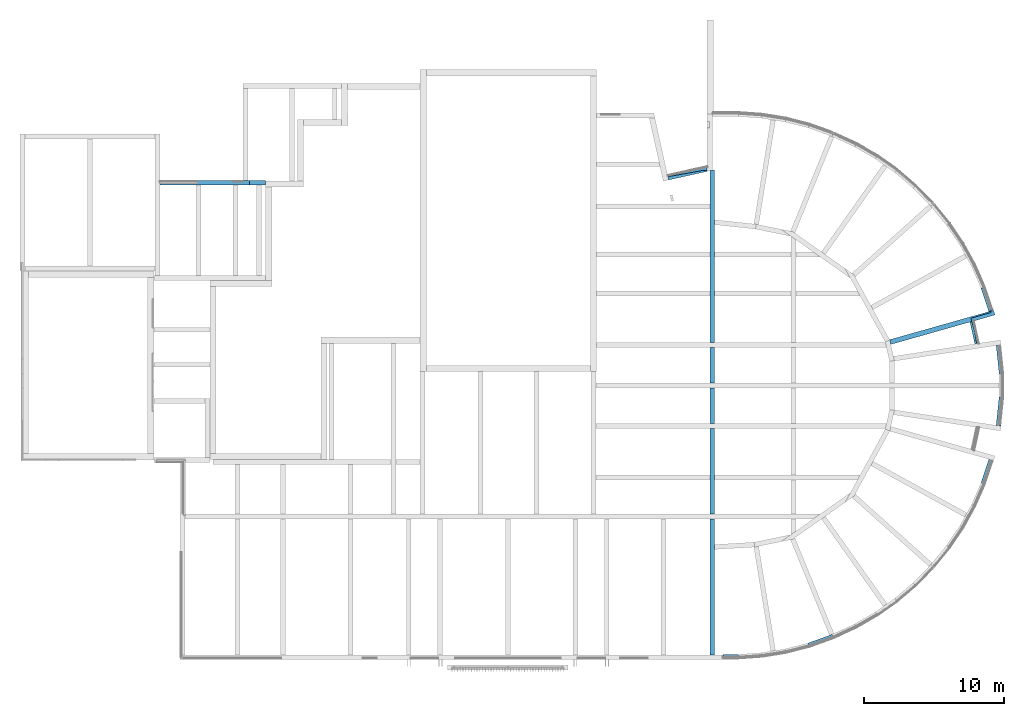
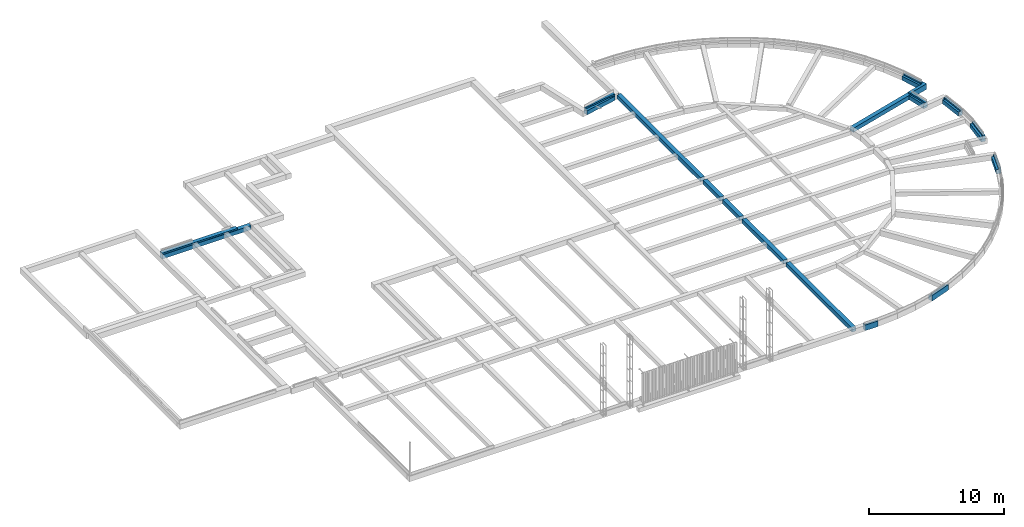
# One storey, part 9 of 11: 11 walls.
"""IFC2X3 building model written with IfcOpenShell, lengths in millimetres."""

from ifc_helpers import new_model, entity, si_unit, converted_unit, derived_unit, direction, frame, origin, place, context, subcontext, project, spatial, faceted_brep, material, layer, layer_set, type_object, element, save


model = new_model("IFC2X3")

# Units and contexts
model_context = context("Model", 3, precision=0.01, world=origin(), true_north=direction((6.12303176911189e-17, 1.0)))
body_context = subcontext(model_context, "Body", "Model", "MODEL_VIEW")
ifc_project = project(units=[si_unit("LENGTHUNIT", "METRE", prefix="MILLI"), si_unit("AREAUNIT", "SQUARE_METRE"), si_unit("VOLUMEUNIT", "CUBIC_METRE"), converted_unit("PLANEANGLEUNIT", "DEGREE", entity("IfcRatioMeasure", 0.0174532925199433), si_unit("PLANEANGLEUNIT", "RADIAN"), dimensions=[0, 0, 0, 0, 0, 0, 0]), si_unit("MASSUNIT", "GRAM", prefix="KILO"), derived_unit("MASSDENSITYUNIT", [(si_unit("MASSUNIT", "GRAM", prefix="KILO"), 1), (si_unit("LENGTHUNIT", "METRE"), -3)]), derived_unit("MOMENTOFINERTIAUNIT", [(si_unit("LENGTHUNIT", "METRE"), 4)]), si_unit("TIMEUNIT", "SECOND"), si_unit("FREQUENCYUNIT", "HERTZ"), si_unit("THERMODYNAMICTEMPERATUREUNIT", "DEGREE_CELSIUS"), derived_unit("THERMALTRANSMITTANCEUNIT", [(si_unit("MASSUNIT", "GRAM", prefix="KILO"), 1), (si_unit("THERMODYNAMICTEMPERATUREUNIT", "KELVIN"), -1), (si_unit("TIMEUNIT", "SECOND"), -3)]), derived_unit("VOLUMETRICFLOWRATEUNIT", [(si_unit("LENGTHUNIT", "METRE"), 3), (si_unit("TIMEUNIT", "SECOND"), -1)]), si_unit("ELECTRICCURRENTUNIT", "AMPERE"), si_unit("ELECTRICVOLTAGEUNIT", "VOLT"), si_unit("POWERUNIT", "WATT"), si_unit("FORCEUNIT", "NEWTON", prefix="KILO"), si_unit("ILLUMINANCEUNIT", "LUX"), si_unit("LUMINOUSFLUXUNIT", "LUMEN"), si_unit("LUMINOUSINTENSITYUNIT", "CANDELA"), derived_unit("USERDEFINED", [(si_unit("MASSUNIT", "GRAM", prefix="KILO"), -1), (si_unit("LENGTHUNIT", "METRE"), -2), (si_unit("TIMEUNIT", "SECOND"), 3), (si_unit("LUMINOUSFLUXUNIT", "LUMEN"), 1)]), derived_unit("LINEARVELOCITYUNIT", [(si_unit("LENGTHUNIT", "METRE"), 1), (si_unit("TIMEUNIT", "SECOND"), -1)]), si_unit("PRESSUREUNIT", "PASCAL"), derived_unit("USERDEFINED", [(si_unit("LENGTHUNIT", "METRE"), -2), (si_unit("MASSUNIT", "GRAM", prefix="KILO"), 1), (si_unit("TIMEUNIT", "SECOND"), -2)]), derived_unit("LINEARFORCEUNIT", [(si_unit("MASSUNIT", "GRAM", prefix="KILO"), 1), (si_unit("LENGTHUNIT", "METRE"), 1), (si_unit("TIMEUNIT", "SECOND"), -2), (si_unit("LENGTHUNIT", "METRE"), -1)]), derived_unit("PLANARFORCEUNIT", [(si_unit("MASSUNIT", "GRAM", prefix="KILO"), 1), (si_unit("LENGTHUNIT", "METRE"), 1), (si_unit("TIMEUNIT", "SECOND"), -2), (si_unit("LENGTHUNIT", "METRE"), -2)])], contexts=[model_context])

# Site, building, storey
site_placement = place(None, origin())
site = spatial("IfcSite", under=ifc_project, at=site_placement, Name="Default", CompositionType="ELEMENT")
building_placement = place(site_placement, origin())
building = spatial("IfcBuilding", under=site, at=building_placement, Name="-", CompositionType="ELEMENT")
storey_placement = place(building_placement, frame((0.0, 0.0, -780.0)))
storey = spatial("IfcBuildingStorey", under=building, at=storey_placement, Name="ok. fundering", CompositionType="ELEMENT", Elevation=-780.0)

# Walls
ifc_material = material(Name="NLRS_f2_beton")
ifc_layer = layer(ifc_material, 350.0)
ifc_layer_set = layer_set([ifc_layer], Name="Basic Wall:NLRS_16_WA_funderingsbalk 350x...mm_gen_aly")
wall_type = type_object("IfcWallType", Name="Basic Wall:NLRS_16_WA_funderingsbalk 350x...mm_gen_aly", PredefinedType="STANDARD", material=ifc_layer_set)
wall_1_placement = place(storey_placement, frame((9825.0, 34122.1133714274, 0.0)))
element("IfcWall", 1, at=wall_1_placement, inside=storey, type_object=wall_type, Name="Basic Wall:NLRS_16_WA_funderingsbalk 350x...mm_gen_aly", ObjectType="Basic Wall:NLRS_16_WA_funderingsbalk 350x...mm_gen_aly", context=body_context, shape_type="Brep", body=[
    faceted_brep([(0.0, -175.0, 0.0), (2577.09385055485, -175.0, 0.0), (2927.09385055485, -175.0, 0.0), (5235.59385055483, -175.0, 0.0), (5585.59385055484, -175.0, 0.0), (6919.64234277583, -175.0, 0.0), (7269.64234277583, -175.0, 0.0), (7569.64234277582, -175.0, 0.0), (7569.64234277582, -175.0, 370.0), (0.0, -175.0, 370.0), (7569.64234277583, 175.0, 0.0), (6310.0, 175.0, 0.0), (5960.0, 175.0, 0.0), (0.0, 175.0, 0.0), (0.0, 175.0, 500.0), (5960.0, 175.0, 500.0), (6310.0, 175.0, 500.0), (6420.0, 175.0, 500.0), (6420.0, 175.0, 370.0), (7569.64234277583, 175.0, 370.0), (7569.64234277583, 140.168284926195, 370.0), (0.0, -150.0, 500.0), (6420.0, -150.0, 500.0), (0.0, -150.0, 370.0), (6420.0, -150.0, 370.0)], [[[0, 1, 2, 3, 4, 5, 6, 7, 8, 9]], [[10, 11, 12, 13, 14, 15, 16, 17, 18, 19]], [[7, 6, 5, 4, 3, 2, 1, 0, 13, 12, 11, 10]], [[7, 10, 19, 20, 8]], [[17, 16, 15, 14, 21, 22]], [[14, 13, 0, 9, 23, 21]], [[24, 23, 9, 8, 20, 19, 18]], [[22, 24, 18, 17]], [[24, 22, 21, 23]]]),
])
wall_2_placement = place(storey_placement, frame((51234.6180848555, 190.440635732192, 0.0), z_axis=(0.0, 0.0, 1.0), x_axis=(-1.0, 0.0, 0.0)))
element("IfcWall", 2, at=wall_2_placement, inside=storey, type_object=wall_type, Name="Basic Wall:NLRS_16_WA_funderingsbalk 350x...mm_gen_aly", ObjectType="Basic Wall:NLRS_16_WA_funderingsbalk 350x...mm_gen_aly", context=body_context, shape_type="Brep", body=[
    faceted_brep([(12.6103563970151, -175.0, 0.0), (1097.33213185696, -175.0, 0.0), (1097.33213185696, -175.0, 370.0), (12.6103563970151, -175.0, 370.0), (1097.33213185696, 175.0, 0.0), (0.0, 175.0, 0.0), (0.0, 175.0, 500.0), (1097.33213185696, 175.0, 500.0), (1097.33213185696, -145.680586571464, 500.0), (1097.33213185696, -145.680586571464, 370.0), (5.90885271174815, 11.0, 500.0), (1069.33213185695, 11.0, 500.0), (1069.33213185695, -145.680586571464, 500.0), (5.90885271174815, 11.0, 370.0), (1069.33213185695, 11.0, 370.0), (1069.33213185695, -145.680586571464, 370.0)], [[[0, 1, 2, 3]], [[4, 5, 6, 7]], [[1, 0, 5, 4]], [[4, 7, 8, 9, 2, 1]], [[7, 6, 10, 11, 12, 8]], [[6, 5, 0, 3, 13, 10]], [[14, 13, 3, 2, 9, 15]], [[12, 15, 9, 8]], [[13, 14, 11, 10]], [[14, 15, 12, 11]]]),
])
wall_3_placement = place(storey_placement, frame((58010.0292487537, 1634.73689799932, 0.0), z_axis=(0.0, 0.0, 1.0), x_axis=(-0.940419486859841, -0.340016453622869, 0.0)))
element("IfcWall", 3, at=wall_3_placement, inside=storey, type_object=wall_type, Name="Basic Wall:NLRS_16_WA_funderingsbalk 350x...mm_gen_aly", ObjectType="Basic Wall:NLRS_16_WA_funderingsbalk 350x...mm_gen_aly", context=body_context, shape_type="Brep", body=[
    faceted_brep([(15.06003455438, -175.0, 0.0), (210.011529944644, -175.0, 0.0), (1837.7002888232, -175.0, 0.0), (1837.7002888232, -175.0, 370.0), (210.011529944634, -175.0, 370.0), (15.06003455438, -175.0, 370.0), (1854.90948796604, 175.0, 0.0), (0.0, 175.0, 0.0), (0.0, 175.0, 500.0), (1854.90948796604, 175.0, 500.0), (7.05670190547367, 11.0, 500.0), (1844.9034599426, 11.0, 500.0), (1846.83639080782, 10.8096747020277, 500.0), (1846.83639080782, 10.8096747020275, 370.0), (7.05670190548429, 11.0, 370.0), (1844.90345994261, 11.0, 370.0)], [[[0, 1, 2, 3, 4, 5]], [[6, 7, 8, 9]], [[2, 1, 0, 7, 6]], [[9, 8, 10, 11, 12]], [[2, 6, 9, 12, 13, 3]], [[8, 7, 0, 5, 14, 10]], [[15, 14, 5, 4, 3, 13]], [[14, 15, 11, 10]], [[11, 15, 13, 12]]]),
])
wall_4_placement = place(storey_placement, frame((69332.4721044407, 14293.6586930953, 0.0), z_axis=(0.0, 0.0, 1.0), x_axis=(-0.315556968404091, -0.948906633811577, 0.0)))
element("IfcWall", 4, at=wall_4_placement, inside=storey, type_object=wall_type, Name="Basic Wall:NLRS_16_WA_funderingsbalk 350x...mm_gen_aly", ObjectType="Basic Wall:NLRS_16_WA_funderingsbalk 350x...mm_gen_aly", context=body_context, shape_type="Brep", body=[
    faceted_brep([(15.9232896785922, -175.0, 0.0), (1782.3359548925, -175.0, 0.0), (1782.33595489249, -175.0, 370.0), (15.9232896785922, -175.0, 370.0), (1798.22936189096, 175.0, 0.0), (0.0, 175.0, 0.0), (0.0, 175.0, 500.0), (1798.22936189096, 175.0, 500.0), (10.3659299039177, -52.8471056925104, 500.0), (80.2935989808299, -49.6657384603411, 500.0), (77.533604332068, 11.0, 500.0), (1790.78216546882, 11.0, 500.0), (1790.78216546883, 11.0, 370.0), (10.3659299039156, -52.8471056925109, 370.0), (77.5336043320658, 11.0, 370.0), (80.2935989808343, -49.6657384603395, 370.0)], [[[0, 1, 2, 3]], [[4, 5, 6, 7]], [[1, 0, 5, 4]], [[7, 6, 8, 9, 10, 11]], [[1, 4, 7, 11, 12, 2]], [[6, 5, 0, 3, 13, 8]], [[14, 15, 13, 3, 2, 12]], [[14, 12, 11, 10]], [[15, 9, 8, 13]], [[15, 14, 10, 9]]]),
])
wall_5_placement = place(storey_placement, frame((69561.1619836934, 24831.2233044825, 0.0), z_axis=(0.0, 0.0, 1.0), x_axis=(-0.962244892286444, -0.272185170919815, 0.0)))
element("IfcWall", 5, at=wall_5_placement, inside=storey, type_object=wall_type, Name="Basic Wall:NLRS_16_WA_funderingsbalk 350x...mm_gen_aly", ObjectType="Basic Wall:NLRS_16_WA_funderingsbalk 350x...mm_gen_aly", context=body_context, shape_type="Brep", body=[
    faceted_brep([(15.8940314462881, -175.0, 0.0), (366.254731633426, -175.0, 0.0), (7744.08173386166, -175.0, 0.0), (7744.08173386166, -175.0, 370.0), (366.254731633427, -175.0, 370.0), (244.25773304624, -175.0, 370.0), (244.257733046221, -175.0, 500.0), (15.8940314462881, -175.0, 500.0), (7757.64174497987, 175.0, 0.0), (1867.45500255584, 175.0, 0.0), (1516.86293048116, 175.0, 0.0), (0.0, 175.0, 0.0), (0.0, 175.0, 500.0), (1516.86293048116, 175.0, 500.0), (1732.24063039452, 175.0, 500.0), (1732.24063039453, 175.0, 370.0), (1867.45500255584, 175.0, 370.0), (7757.64174497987, 175.0, 370.0), (7738.64374652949, -151.479558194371, 0.0), (244.257729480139, -70.0, 500.0), (1732.24063039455, -70.0, 500.0), (7738.64374652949, -151.479558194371, 370.0), (1732.24063039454, -70.0, 370.0), (244.257729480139, -70.0, 370.0)], [[[0, 1, 2, 3, 4, 5, 6, 7]], [[8, 9, 10, 11, 12, 13, 14, 15, 16, 17]], [[2, 1, 0, 11, 10, 9, 8, 18]], [[12, 7, 6, 19, 20, 14, 13]], [[0, 7, 12, 11]], [[2, 18, 21, 3]], [[18, 8, 17, 21]], [[22, 23, 5, 4, 3, 21, 17, 16, 15]], [[23, 22, 20, 19]], [[20, 22, 15, 14]], [[23, 19, 6, 5]]]),
])
wall_6_placement = place(storey_placement, frame((67978.325232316, 24212.1931990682, 0.0), z_axis=(0.0, 0.0, 1.0), x_axis=(0.21582659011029, -0.976431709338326, 0.0)))
element("IfcWall", 6, at=wall_6_placement, inside=storey, type_object=wall_type, Name="Basic Wall:NLRS_16_WA_funderingsbalk 350x...mm_gen_aly", ObjectType="Basic Wall:NLRS_16_WA_funderingsbalk 350x...mm_gen_aly", context=body_context, shape_type="Brep", body=[
    faceted_brep([(20.3666639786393, -175.0, 0.0), (1621.00119570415, -175.0, 0.0), (1621.00119570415, -175.0, 370.0), (20.3666639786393, -175.0, 370.0), (1644.27210704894, 175.0, 0.0), (0.0, 175.0, 0.0), (0.0, 175.0, 500.0), (1644.27210704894, 175.0, 500.0), (12.5117639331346, -40.0139748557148, 500.0), (809.848723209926, 6.3834363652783, 500.0), (1629.4379202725, -48.1096709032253, 500.0), (1629.4379202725, -48.1096709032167, 370.0), (12.5117639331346, -40.0139748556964, 370.0), (809.848723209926, 6.3834363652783, 370.0)], [[[0, 1, 2, 3]], [[4, 5, 6, 7]], [[1, 0, 5, 4]], [[7, 6, 8, 9, 10]], [[1, 4, 7, 10, 11, 2]], [[6, 5, 0, 3, 12, 8]], [[11, 13, 12, 3, 2]], [[13, 9, 8, 12]], [[9, 13, 11, 10]]]),
])
wall_7_placement = place(storey_placement, frame((68766.0307152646, 26642.5174871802, 0.0), z_axis=(0.0, 0.0, 1.0), x_axis=(0.315556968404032, -0.948906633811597, 0.0)))
element("IfcWall", 7, at=wall_7_placement, inside=storey, type_object=wall_type, Name="Basic Wall:NLRS_16_WA_funderingsbalk 350x...mm_gen_aly", ObjectType="Basic Wall:NLRS_16_WA_funderingsbalk 350x...mm_gen_aly", context=body_context, shape_type="Brep", body=[
    faceted_brep([(15.8934069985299, -175.0, 0.0), (1778.2233822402, -175.0, 0.0), (1778.22338224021, -175.0, 370.0), (15.8934069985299, -175.0, 370.0), (1794.11741368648, 175.0, 0.0), (0.0, 175.0, 0.0), (0.0, 175.0, 500.0), (1794.11741368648, 175.0, 500.0), (7.44719642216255, 11.0, 500.0), (371.590769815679, 11.0, 500.0), (1711.59200575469, 11.0, 500.0), (1708.83433610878, -49.7262153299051, 500.0), (1783.75774762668, -53.1285986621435, 500.0), (1783.75774762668, -53.1285986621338, 370.0), (7.44719642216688, 11.0, 370.0), (371.590769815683, 11.0, 370.0), (1708.83433610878, -49.7262153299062, 370.0), (1711.59200575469, 11.0, 370.0)], [[[0, 1, 2, 3]], [[4, 5, 6, 7]], [[1, 0, 5, 4]], [[7, 6, 8, 9, 10, 11, 12]], [[1, 4, 7, 12, 13, 2]], [[6, 5, 0, 3, 14, 8]], [[15, 14, 3, 2, 13, 16, 17]], [[14, 15, 9, 8]], [[15, 17, 10, 9]], [[17, 16, 11, 10]], [[11, 16, 13, 12]]]),
])
wall_8_placement = place(storey_placement, frame((69858.1523281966, 22504.8607535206, 0.0), z_axis=(0.0, 0.0, 1.0), x_axis=(0.10452846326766, -0.994521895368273, 0.0)))
element("IfcWall", 8, at=wall_8_placement, inside=storey, type_object=wall_type, Name="Basic Wall:NLRS_16_WA_funderingsbalk 350x...mm_gen_aly", ObjectType="Basic Wall:NLRS_16_WA_funderingsbalk 350x...mm_gen_aly", context=body_context, shape_type="Brep", body=[
    faceted_brep([(16.2614630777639, -175.0, 0.0), (2038.39941844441, -175.0, 0.0), (2038.39941844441, -175.0, 370.0), (16.2614630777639, -175.0, 370.0), (2056.74214119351, 175.0, 0.0), (0.0, 175.0, 0.0), (0.0, 175.0, 500.0), (2056.74214119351, 175.0, 500.0), (10.5924745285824, -52.9847801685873, 500.0), (85.5116559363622, -49.5039358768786, 500.0), (82.7005630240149, 11.0, 500.0), (83.2967122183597, 11.0, 500.0), (2048.14726539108, 11.0, 500.0), (10.5924745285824, -52.9847801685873, 370.0), (2048.14726539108, 11.0, 370.0), (82.7005630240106, 11.0, 370.0), (85.5116559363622, -49.5039358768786, 370.0)], [[[0, 1, 2, 3]], [[4, 5, 6, 7]], [[1, 0, 5, 4]], [[7, 6, 8, 9, 10, 11, 12]], [[6, 5, 0, 3, 13, 8]], [[1, 4, 7, 12, 14, 2]], [[15, 16, 13, 3, 2, 14]], [[16, 9, 8, 13]], [[16, 15, 10, 9]], [[15, 14, 12, 11, 10]]]),
])
wall_9_placement = place(storey_placement, frame((70073.1404235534, 18772.73379695, 0.0), z_axis=(0.0, 0.0, 1.0), x_axis=(-0.104528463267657, -0.994521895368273, 0.0)))
element("IfcWall", 9, at=wall_9_placement, inside=storey, type_object=wall_type, Name="Basic Wall:NLRS_16_WA_funderingsbalk 350x...mm_gen_aly", ObjectType="Basic Wall:NLRS_16_WA_funderingsbalk 350x...mm_gen_aly", context=body_context, shape_type="Brep", body=[
    faceted_brep([(18.3427227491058, -175.0, 0.0), (2039.88804812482, -175.0, 0.0), (2039.88804812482, -175.0, 370.0), (18.3427227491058, -175.0, 370.0), (2055.86347297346, 175.0, 0.0), (0.0, 175.0, 0.0), (0.0, 175.0, 500.0), (2055.86347297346, 175.0, 500.0), (8.59487580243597, 11.0, 500.0), (1970.89626548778, 11.0, 500.0), (1971.26026894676, 11.0, 500.0), (1968.49967901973, -49.4807999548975, 500.0), (2045.45692412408, -52.9934419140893, 500.0), (2045.45692412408, -52.9934419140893, 370.0), (8.59487580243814, 11.0, 370.0), (1971.26026894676, 11.0, 370.0), (1968.49967901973, -49.4807999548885, 370.0)], [[[0, 1, 2, 3]], [[4, 5, 6, 7]], [[1, 0, 5, 4]], [[7, 6, 8, 9, 10, 11, 12]], [[1, 4, 7, 12, 13, 2]], [[6, 5, 0, 3, 14, 8]], [[15, 14, 3, 2, 13, 16]], [[11, 16, 13, 12]], [[14, 15, 10, 9, 8]], [[15, 16, 11, 10]]]),
])
wall_10_placement = place(storey_placement, frame((49361.6203901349, 336.121222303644, 0.0), z_axis=(0.0, 0.0, 1.0), x_axis=(0.0, 1.0, 0.0)))
element("IfcWall", 10, at=wall_10_placement, inside=storey, type_object=wall_type, Name="Basic Wall:NLRS_16_WA_funderingsbalk 350x...mm_gen_aly", ObjectType="Basic Wall:NLRS_16_WA_funderingsbalk 350x...mm_gen_aly", context=body_context, shape_type="Brep", body=[
    faceted_brep([(0.0, -175.0, 0.0), (7542.52661883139, -175.0, 0.0), (7893.11861115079, -175.0, 0.0), (9732.50287309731, -175.0, 0.0), (9732.50287309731, -175.0, 370.0), (7893.11861115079, -175.0, 370.0), (7542.52661883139, -175.0, 370.0), (0.0, -175.0, 370.0), (0.0, 175.0, 0.0), (9732.50287309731, 175.0, 0.0), (0.0, 175.0, 370.0), (9732.50287309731, 175.0, 370.0)], [[[0, 1, 2, 3, 4, 5, 6, 7]], [[0, 8, 9, 3, 2, 1]], [[8, 0, 7, 10]], [[3, 9, 11, 4]], [[7, 6, 5, 4, 11, 10]], [[9, 8, 10, 11]]]),
    faceted_brep([(34643.2463973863, 175.0, 0.0), (32277.6206095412, 175.0, 0.0), (31927.6206095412, 175.0, 0.0), (28827.0855601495, 175.0, 0.0), (28477.0855601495, 175.0, 0.0), (26041.1779851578, 175.0, 0.0), (25691.1779851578, 175.0, 0.0), (22354.93850666, 175.0, 0.0), (22354.93850666, 175.0, 370.0), (25691.1779851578, 175.0, 370.0), (26041.1779851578, 175.0, 370.0), (28477.0855601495, 175.0, 370.0), (28827.0855601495, 175.0, 370.0), (31927.6206095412, 175.0, 370.0), (32277.6206095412, 175.0, 370.0), (34643.2463973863, 175.0, 370.0), (34677.6603548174, 20.0, 500.0), (34671.6699661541, 46.9806297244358, 500.0), (34671.6699661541, 20.0, 500.0), (22354.93850666, -175.0, 0.0), (22354.93850666, -175.0, 370.0), (34671.6699661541, 20.0, 370.0), (34671.6699661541, 46.9806297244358, 370.0), (34677.6603548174, 20.0, 370.0), (34720.9553335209, -175.0, 0.0), (34689.871759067, -35.0, 0.0), (34720.9553335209, -175.0, 370.0), (25691.1779851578, -175.0, 370.0), (26041.1779851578, -175.0, 370.0), (28477.0855601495, -175.0, 370.0), (28827.0855601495, -175.0, 370.0), (30786.3766469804, -175.0, 370.0), (31138.3586550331, -175.0, 370.0), (31138.3586550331, -175.0, 0.0), (30786.3766469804, -175.0, 0.0), (28827.0855601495, -175.0, 0.0), (28477.0855601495, -175.0, 0.0), (26041.1779851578, -175.0, 0.0), (25691.1779851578, -175.0, 0.0)], [[[0, 1, 2, 3, 4, 5, 6, 7, 8, 9, 10, 11, 12, 13, 14, 15]], [[16, 17, 18]], [[7, 19, 20, 8]], [[21, 18, 17, 22]], [[18, 21, 23, 16]], [[24, 25, 0, 15, 22, 17, 16, 23, 26]], [[23, 21, 22, 15, 14, 13, 12, 11, 10, 9, 8, 20, 27, 28, 29, 30, 31, 32, 26]], [[24, 33, 34, 35, 36, 37, 38, 19, 7, 6, 5, 4, 3, 2, 1, 0, 25]], [[19, 38, 37, 36, 35, 34, 33, 24, 26, 32, 31, 30, 29, 28, 27, 20]]]),
    faceted_brep([(19454.9385066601, 175.0, 0.0), (19454.9385066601, -175.0, 0.0), (19454.9385066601, -175.0, 370.0), (19454.9385066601, 175.0, 370.0), (22004.93850666, -175.0, 0.0), (22004.93850666, 175.0, 0.0), (22004.93850666, 175.0, 370.0), (22004.93850666, -175.0, 370.0)], [[[0, 1, 2, 3]], [[4, 5, 6, 7]], [[2, 7, 6, 3]], [[1, 0, 5, 4]], [[5, 0, 3, 6]], [[1, 4, 7, 2]]]),
    faceted_brep([(19104.9385066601, -175.0, 0.0), (19104.9385066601, 175.0, 0.0), (19104.9385066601, 175.0, 370.0), (19104.9385066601, -175.0, 370.0), (16554.93850666, 175.0, 0.0), (16554.93850666, -175.0, 0.0), (16554.93850666, -175.0, 370.0), (16554.93850666, 175.0, 370.0)], [[[0, 1, 2, 3]], [[4, 5, 6, 7]], [[6, 3, 2, 7]], [[1, 0, 5, 4]], [[1, 4, 7, 2]], [[5, 0, 3, 6]]]),
    faceted_brep([(16204.93850666, -175.0, 0.0), (16204.93850666, 175.0, 0.0), (16204.93850666, 175.0, 370.0), (16204.93850666, -175.0, 370.0), (10082.5028730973, 175.0, 0.0), (10082.5028730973, -175.0, 0.0), (10082.5028730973, -175.0, 370.0), (10082.5028730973, 175.0, 370.0), (12518.6990281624, -175.0, 370.0), (12868.6990281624, -175.0, 370.0), (12868.6990281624, 175.0, 370.0), (12518.6990281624, 175.0, 370.0), (12868.6990281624, -175.0, 0.0), (12518.6990281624, -175.0, 0.0), (12518.6990281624, 175.0, 0.0), (12868.6990281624, 175.0, 0.0)], [[[0, 1, 2, 3]], [[4, 5, 6, 7]], [[6, 8, 9, 3, 2, 10, 11, 7]], [[1, 0, 12, 13, 5, 4, 14, 15]], [[1, 15, 14, 4, 7, 11, 10, 2]], [[5, 13, 12, 0, 3, 9, 8, 6]]]),
])
wall_11_placement = place(storey_placement, frame((46203.8302699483, 34496.3735131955, 0.0), z_axis=(0.0, 0.0, 1.0), x_axis=(0.976227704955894, 0.216747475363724, 0.0)))
element("IfcWall", 11, at=wall_11_placement, inside=storey, type_object=wall_type, Name="Basic Wall:NLRS_16_WA_funderingsbalk 350x...mm_gen_aly", ObjectType="Basic Wall:NLRS_16_WA_funderingsbalk 350x...mm_gen_aly", context=body_context, shape_type="Brep", body=[
    faceted_brep([(0.0, -175.0, 0.0), (2821.94338268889, -175.0, 0.0), (2821.94338268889, -175.0, 370.0), (0.0, -175.0, 370.0), (2899.65231882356, 175.0, 0.0), (0.0, 175.0, 0.0), (0.0, 175.0, 500.0), (2899.65231882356, 175.0, 500.0), (0.0, 60.8797355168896, 500.0), (2540.77848518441, -40.2463960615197, 500.0), (2837.24757942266, -106.070104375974, 500.0), (0.0, 60.8797355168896, 370.0), (2837.24757942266, -106.070104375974, 370.0), (2540.77848518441, -40.2463960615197, 370.0)], [[[0, 1, 2, 3]], [[4, 5, 6, 7]], [[1, 0, 5, 4]], [[7, 6, 8, 9, 10]], [[6, 5, 0, 3, 11, 8]], [[1, 4, 7, 10, 12, 2]], [[12, 13, 11, 3, 2]], [[13, 9, 8, 11]], [[9, 13, 12, 10]]]),
])

save(model, "model.ifc")
